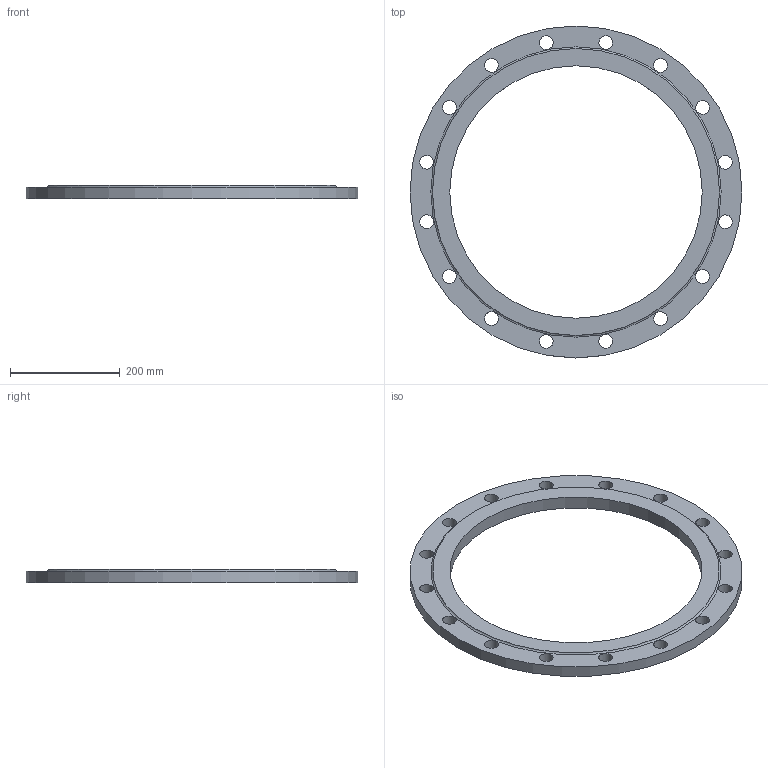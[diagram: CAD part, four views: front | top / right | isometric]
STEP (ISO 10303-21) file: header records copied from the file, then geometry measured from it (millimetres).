
FILE_DESCRIPTION(/* description */ (''),/* implementation_level */ '2;1');
FILE_NAME(/* name */ 'C:\Users\D\Documents\Inventor\HP\JIS\フランジ\JIS 5k sop rf\jis5k-sop-rf-450.stp',/* time_stamp */ '2024-09-12T17:02:38+09:00',/* author */ ('D'),/* organization */ (''),/* preprocessor_version */ 'ST-DEVELOPER v18',/* originating_system */ 'Autodesk Inventor 2020',/* authorisation */ '');
FILE_SCHEMA (('AUTOMOTIVE_DESIGN { 1 0 10303 214 3 1 1 }'));
Length unit declared in the file: millimetre
Products named in the file (1): jis5k-sop-rf-10
Bounding box: 605 x 605 x 24 mm (x, y, z)
Volume: 2531152 mm3; surface area: 330666.3 mm2
Topology: 1 solids, 1 shells, 22 faces, 62 edges, 43 vertices
Faces by surface type: cylinder 18, plane 3, torus 1
Full cylindrical faces by diameter (mm): 25 x16, 460 x1, 605 x1
Entity records: 859 total; most frequent: DIRECTION 152, CARTESIAN_POINT 128, ORIENTED_EDGE 124, AXIS2_PLACEMENT_3D 67, EDGE_CURVE 62, EDGE_LOOP 57, CIRCLE 44, VERTEX_POINT 43
